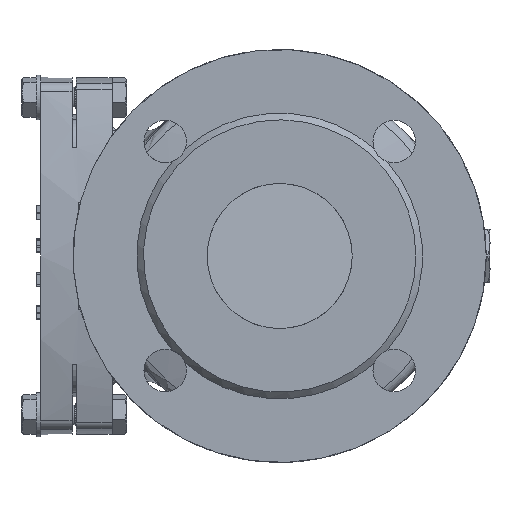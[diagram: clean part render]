
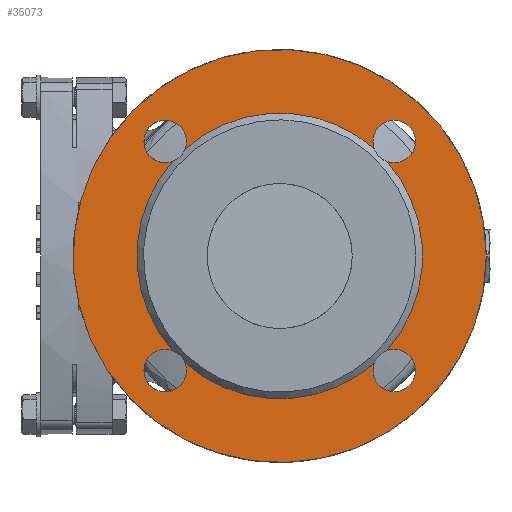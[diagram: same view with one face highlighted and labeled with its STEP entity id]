
A CAD part, left-side view. The second image highlights one B-rep face of the part: STEP entity #35073.
In plain terms, the highlighted planar face has unit normal (-1, 0, 0).
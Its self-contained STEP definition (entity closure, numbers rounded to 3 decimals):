
#4633=PLANE('',#36770);
#5328=CIRCLE('',#36636,64.);
#5329=CIRCLE('',#36637,64.);
#5330=CIRCLE('',#36638,64.);
#5331=CIRCLE('',#36639,64.);
#5332=CIRCLE('',#36641,9.5);
#5334=CIRCLE('',#36644,9.5);
#5336=CIRCLE('',#36647,9.5);
#5338=CIRCLE('',#36650,9.5);
#5384=CIRCLE('',#36771,92.5);
#7420=ORIENTED_EDGE('',*,*,#13812,.F.);
#7421=ORIENTED_EDGE('',*,*,#13805,.F.);
#7422=ORIENTED_EDGE('',*,*,#13810,.F.);
#7423=ORIENTED_EDGE('',*,*,#13803,.F.);
#7424=ORIENTED_EDGE('',*,*,#13808,.F.);
#7425=ORIENTED_EDGE('',*,*,#13801,.F.);
#7426=ORIENTED_EDGE('',*,*,#13806,.F.);
#7427=ORIENTED_EDGE('',*,*,#13799,.F.);
#7428=ORIENTED_EDGE('',*,*,#14234,.T.);
#13799=EDGE_CURVE('',#17358,#17360,#5328,.T.);
#13801=EDGE_CURVE('',#17361,#17362,#5329,.T.);
#13803=EDGE_CURVE('',#17363,#17364,#5330,.T.);
#13805=EDGE_CURVE('',#17365,#17359,#5331,.T.);
#13806=EDGE_CURVE('',#17360,#17361,#5332,.T.);
#13808=EDGE_CURVE('',#17362,#17363,#5334,.T.);
#13810=EDGE_CURVE('',#17364,#17365,#5336,.T.);
#13812=EDGE_CURVE('',#17359,#17358,#5338,.T.);
#14234=EDGE_CURVE('',#17761,#17761,#5384,.T.);
#17358=VERTEX_POINT('',#48733);
#17359=VERTEX_POINT('',#48734);
#17360=VERTEX_POINT('',#48736);
#17361=VERTEX_POINT('',#48744);
#17362=VERTEX_POINT('',#48746);
#17363=VERTEX_POINT('',#48754);
#17364=VERTEX_POINT('',#48756);
#17365=VERTEX_POINT('',#48764);
#17761=VERTEX_POINT('',#52145);
#20934=EDGE_LOOP('',(#7420,#7421,#7422,#7423,#7424,#7425,#7426,#7427));
#20935=EDGE_LOOP('',(#7428));
#22749=FACE_BOUND('',#20934,.T.);
#22750=FACE_BOUND('',#20935,.T.);
#35073=ADVANCED_FACE('',(#22749,#22750),#4633,.T.);
#36636=AXIS2_PLACEMENT_3D('',#48735,#39151,#39152);
#36637=AXIS2_PLACEMENT_3D('',#48745,#39153,#39154);
#36638=AXIS2_PLACEMENT_3D('',#48755,#39155,#39156);
#36639=AXIS2_PLACEMENT_3D('',#48765,#39157,#39158);
#36641=AXIS2_PLACEMENT_3D('',#48767,#39161,#39162);
#36644=AXIS2_PLACEMENT_3D('',#48771,#39167,#39168);
#36647=AXIS2_PLACEMENT_3D('',#48775,#39173,#39174);
#36650=AXIS2_PLACEMENT_3D('',#48779,#39179,#39180);
#36770=AXIS2_PLACEMENT_3D('',#52143,#39654,#39655);
#36771=AXIS2_PLACEMENT_3D('',#52144,#39656,#39657);
#39151=DIRECTION('',(-1.,0.,0.));
#39152=DIRECTION('',(0.,-1.,0.));
#39153=DIRECTION('',(-1.,0.,0.));
#39154=DIRECTION('',(0.,-1.,0.));
#39155=DIRECTION('',(-1.,0.,0.));
#39156=DIRECTION('',(0.,-1.,0.));
#39157=DIRECTION('',(-1.,0.,0.));
#39158=DIRECTION('',(0.,-1.,0.));
#39161=DIRECTION('',(-1.,0.,0.));
#39162=DIRECTION('',(0.,-1.,0.));
#39167=DIRECTION('',(-1.,0.,0.));
#39168=DIRECTION('',(0.,-1.,0.));
#39173=DIRECTION('',(-1.,0.,0.));
#39174=DIRECTION('',(0.,-1.,0.));
#39179=DIRECTION('',(-1.,0.,0.));
#39180=DIRECTION('',(0.,-1.,0.));
#39654=DIRECTION('',(-1.,0.,0.));
#39655=DIRECTION('',(0.,-1.,0.));
#39656=DIRECTION('',(-1.,0.,0.));
#39657=DIRECTION('',(0.,-1.,0.));
#48733=CARTESIAN_POINT('',(-117.,42.35,-47.984));
#48734=CARTESIAN_POINT('',(-117.,47.984,-42.35));
#48735=CARTESIAN_POINT('',(-117.,0.,0.));
#48736=CARTESIAN_POINT('',(-117.,-42.35,-47.984));
#48744=CARTESIAN_POINT('',(-117.,-47.984,-42.35));
#48745=CARTESIAN_POINT('',(-117.,0.,0.));
#48746=CARTESIAN_POINT('',(-117.,-47.984,42.35));
#48754=CARTESIAN_POINT('',(-117.,-42.35,47.984));
#48755=CARTESIAN_POINT('',(-117.,0.,0.));
#48756=CARTESIAN_POINT('',(-117.,42.35,47.984));
#48764=CARTESIAN_POINT('',(-117.,47.984,42.35));
#48765=CARTESIAN_POINT('',(-117.,0.,0.));
#48767=CARTESIAN_POINT('',(-117.,-51.265,-51.265));
#48771=CARTESIAN_POINT('',(-117.,-51.265,51.265));
#48775=CARTESIAN_POINT('',(-117.,51.265,51.265));
#48779=CARTESIAN_POINT('',(-117.,51.265,-51.265));
#52143=CARTESIAN_POINT('',(-117.,-94.5,0.));
#52144=CARTESIAN_POINT('',(-117.,0.,0.));
#52145=CARTESIAN_POINT('',(-117.,-92.5,0.));
